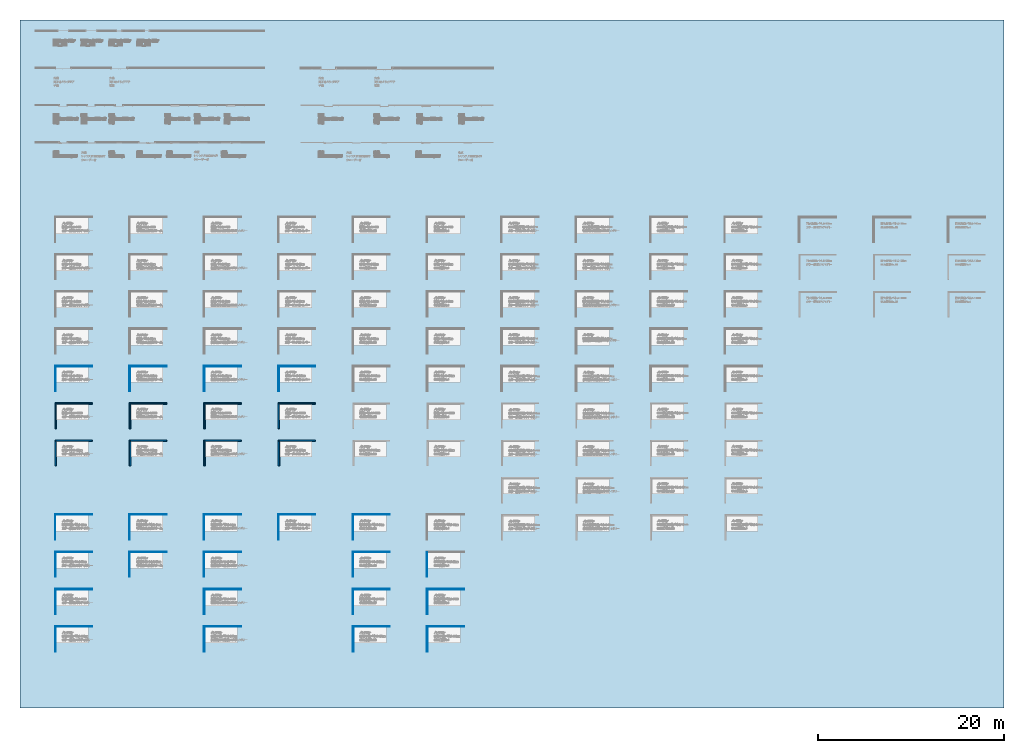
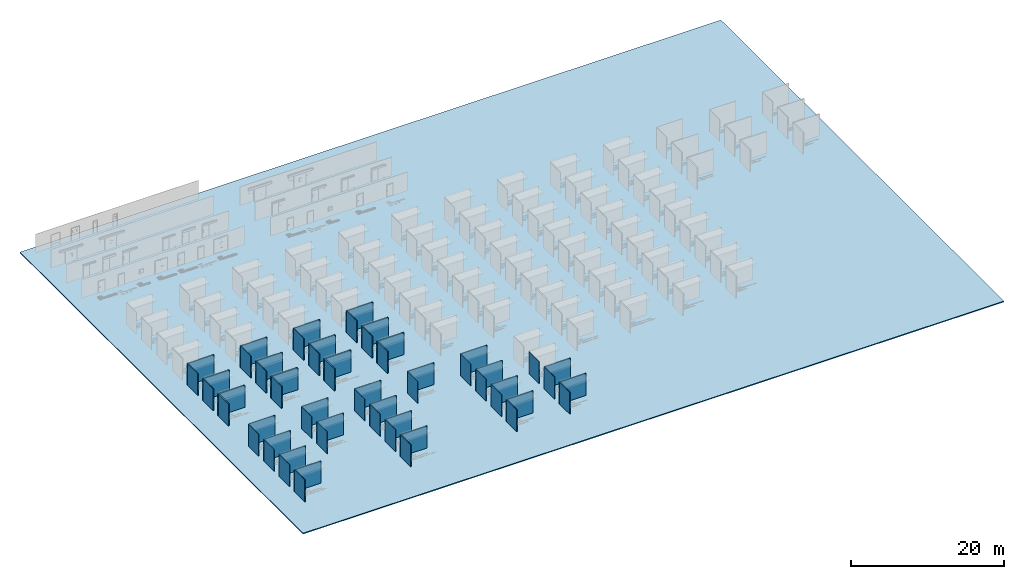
# One storey, part 1 of 16: 59 walls, 1 slab.
"""IFC2X3 building model written with IfcOpenShell, lengths in millimetres."""

from ifc_helpers import new_model, entity, si_unit, converted_unit, derived_unit, direction, frame, frame_2d, origin, origin_2d_with_axis, place, context, subcontext, project, spatial, rectangle, extrude, material, layer, layer_set, layer_usage, type_object, element, save


model = new_model("IFC2X3")

# Units and contexts
model_context = context("Model", 3, precision=0.01, world=origin(), true_north=direction((6.123031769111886e-17, 1.0)))
body_context = subcontext(model_context, "Body", "Model", "MODEL_VIEW")
ifc_project = project(units=[si_unit("LENGTHUNIT", "METRE", prefix="MILLI"), si_unit("AREAUNIT", "SQUARE_METRE"), si_unit("VOLUMEUNIT", "CUBIC_METRE"), converted_unit("PLANEANGLEUNIT", "DEGREE", entity("IfcRatioMeasure", 0.017453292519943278), si_unit("PLANEANGLEUNIT", "RADIAN"), dimensions=[0, 0, 0, 0, 0, 0, 0]), si_unit("MASSUNIT", "GRAM", prefix="KILO"), derived_unit("MASSDENSITYUNIT", [(si_unit("MASSUNIT", "GRAM", prefix="KILO"), 1), (si_unit("LENGTHUNIT", "METRE"), -3)]), derived_unit("IONCONCENTRATIONUNIT", [(si_unit("MASSUNIT", "GRAM", prefix="KILO"), 1), (si_unit("LENGTHUNIT", "METRE"), -3)]), derived_unit("MOMENTOFINERTIAUNIT", [(si_unit("LENGTHUNIT", "METRE"), 4)]), si_unit("TIMEUNIT", "SECOND"), si_unit("FREQUENCYUNIT", "HERTZ"), si_unit("THERMODYNAMICTEMPERATUREUNIT", "DEGREE_CELSIUS"), derived_unit("THERMALTRANSMITTANCEUNIT", [(si_unit("MASSUNIT", "GRAM", prefix="KILO"), 1), (si_unit("THERMODYNAMICTEMPERATUREUNIT", "KELVIN"), -1), (si_unit("TIMEUNIT", "SECOND"), -3)]), derived_unit("THERMALCONDUCTANCEUNIT", [(si_unit("MASSUNIT", "GRAM", prefix="KILO"), 1), (si_unit("THERMODYNAMICTEMPERATUREUNIT", "KELVIN"), -1), (si_unit("TIMEUNIT", "SECOND"), -3), (si_unit("LENGTHUNIT", "METRE"), 1)]), derived_unit("VOLUMETRICFLOWRATEUNIT", [(si_unit("LENGTHUNIT", "METRE"), 3), (si_unit("TIMEUNIT", "SECOND"), -1)]), derived_unit("MASSFLOWRATEUNIT", [(si_unit("MASSUNIT", "GRAM", prefix="KILO"), 1), (si_unit("TIMEUNIT", "SECOND"), -1)]), derived_unit("ROTATIONALFREQUENCYUNIT", [(si_unit("TIMEUNIT", "SECOND"), -1)]), si_unit("ELECTRICCURRENTUNIT", "AMPERE"), si_unit("ELECTRICVOLTAGEUNIT", "VOLT"), si_unit("POWERUNIT", "WATT"), si_unit("FORCEUNIT", "NEWTON", prefix="KILO"), si_unit("ILLUMINANCEUNIT", "LUX"), si_unit("LUMINOUSFLUXUNIT", "LUMEN"), si_unit("LUMINOUSINTENSITYUNIT", "CANDELA"), derived_unit("USERDEFINED", [(si_unit("MASSUNIT", "GRAM", prefix="KILO"), -1), (si_unit("LENGTHUNIT", "METRE"), -2), (si_unit("TIMEUNIT", "SECOND"), 3), (si_unit("LUMINOUSFLUXUNIT", "LUMEN"), 1)]), derived_unit("USERDEFINED", [(si_unit("MASSUNIT", "GRAM", prefix="KILO"), 1), (si_unit("TIMEUNIT", "SECOND"), -3), (si_unit("LENGTHUNIT", "METRE"), 3), (si_unit("ELECTRICCURRENTUNIT", "AMPERE"), -2)]), derived_unit("SOUNDPOWERUNIT", [(si_unit("MASSUNIT", "GRAM", prefix="KILO"), 1), (si_unit("TIMEUNIT", "SECOND"), -3), (si_unit("LENGTHUNIT", "METRE"), 2)]), derived_unit("SOUNDPRESSUREUNIT", [(si_unit("MASSUNIT", "GRAM", prefix="KILO"), 1), (si_unit("LENGTHUNIT", "METRE"), -1), (si_unit("TIMEUNIT", "SECOND"), -2)]), derived_unit("LINEARVELOCITYUNIT", [(si_unit("LENGTHUNIT", "METRE"), 1), (si_unit("TIMEUNIT", "SECOND"), -1)]), si_unit("PRESSUREUNIT", "PASCAL"), derived_unit("USERDEFINED", [(si_unit("MASSUNIT", "GRAM", prefix="KILO"), 1), (si_unit("LENGTHUNIT", "METRE"), -2), (si_unit("TIMEUNIT", "SECOND"), -2)]), derived_unit("LINEARFORCEUNIT", [(si_unit("MASSUNIT", "GRAM", prefix="KILO"), 1), (si_unit("TIMEUNIT", "SECOND"), -2)]), derived_unit("PLANARFORCEUNIT", [(si_unit("MASSUNIT", "GRAM", prefix="KILO"), 1), (si_unit("LENGTHUNIT", "METRE"), -1), (si_unit("TIMEUNIT", "SECOND"), -2)]), derived_unit("SPECIFICHEATCAPACITYUNIT", [(si_unit("THERMODYNAMICTEMPERATUREUNIT", "KELVIN"), -1), (si_unit("LENGTHUNIT", "METRE"), 2), (si_unit("TIMEUNIT", "SECOND"), -2)]), derived_unit("HEATINGVALUEUNIT", [(si_unit("LENGTHUNIT", "METRE"), 2), (si_unit("TIMEUNIT", "SECOND"), -2)]), derived_unit("VAPORPERMEABILITYUNIT", [(si_unit("LENGTHUNIT", "METRE"), -1), (si_unit("TIMEUNIT", "SECOND"), 1)]), derived_unit("DYNAMICVISCOSITYUNIT", [(si_unit("MASSUNIT", "GRAM", prefix="KILO"), 1), (si_unit("TIMEUNIT", "SECOND"), -1), (si_unit("LENGTHUNIT", "METRE"), -1)]), derived_unit("THERMALEXPANSIONCOEFFICIENTUNIT", [(si_unit("THERMODYNAMICTEMPERATUREUNIT", "KELVIN"), -1)]), derived_unit("MODULUSOFELASTICITYUNIT", [(si_unit("MASSUNIT", "GRAM", prefix="KILO"), 1), (si_unit("LENGTHUNIT", "METRE"), -1), (si_unit("TIMEUNIT", "SECOND"), -2)]), derived_unit("ISOTHERMALMOISTURECAPACITYUNIT", [(si_unit("LENGTHUNIT", "METRE"), 3), (si_unit("MASSUNIT", "GRAM", prefix="KILO"), -1)]), derived_unit("MOISTUREDIFFUSIVITYUNIT", [(si_unit("TIMEUNIT", "SECOND"), -1), (si_unit("LENGTHUNIT", "METRE"), 2)])], contexts=[model_context])

# Site, building, storey
site_placement = place(None, origin())
site = spatial("IfcSite", under=ifc_project, at=site_placement, Name="Default", CompositionType="ELEMENT")
building_placement = place(site_placement, origin())
building = spatial("IfcBuilding", under=site, at=building_placement, CompositionType="ELEMENT")
storey_placement = place(building_placement, frame((0.0, 0.0, 500.0)))
storey = spatial("IfcBuildingStorey", under=building, at=storey_placement, Name="レベル 1", CompositionType="ELEMENT", Elevation=500.00000000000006)

# Slab
ifc_material_1 = material(Name="<Unnamed>")
ifc_layer_1 = layer(ifc_material_1, 150.0)
ifc_layer_set_1 = layer_set([ifc_layer_1], Name="床:一般 150 mm")
ifc_layer_usage_1 = layer_usage(ifc_layer_set_1, "AXIS3", "POSITIVE", 0.0)
slab_type = type_object("IfcSlabType", Name="床:一般 150 mm", PredefinedType="FLOOR", material=ifc_layer_set_1)
slab_placement = place(storey_placement, origin())
element("IfcSlab", 1, at=slab_placement, inside=storey, type_object=slab_type, material=ifc_layer_usage_1, Name="床:一般 150 mm", ObjectType="床:一般 150 mm", PredefinedType="FLOOR", context=body_context, shape_type="SweptSolid", body=[
    extrude(rectangle(XDim=74000.0, YDim=105820.03872784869, at=origin_2d_with_axis()), frame((25140.980636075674, -3829.265384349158, 0.0), z_axis=(0.0, 0.0, -1.0), x_axis=(0.0, 1.0, 0.0)), (0.0, 0.0, 1.0), 150.0),
])

# Walls
ifc_material_2 = material(Name="g-p_硬質ウレタンフォーム")
ifc_layer_2 = layer(ifc_material_2, 100.0)
ifc_layer_set_2 = layer_set([ifc_layer_2], Name="標準壁:g-p_断熱パネル(フラット)t100")
ifc_layer_usage_2 = layer_usage(ifc_layer_set_2, "AXIS2", "NEGATIVE", 49.99999999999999)
wall_type_1 = type_object("IfcWallType", Name="標準壁:g-p_断熱パネル(フラット)t100", PredefinedType="STANDARD", material=ifc_layer_set_2)
wall_1_placement = place(storey_placement, frame((-24000.0, -4050.0, 0.0)))
element("IfcWallStandardCase", 2, at=wall_1_placement, inside=storey, type_object=wall_type_1, material=ifc_layer_usage_2, Name="標準壁:g-p_断熱パネル(フラット)t100", ObjectType="標準壁:g-p_断熱パネル(フラット)t100", context=body_context, shape_type="SweptSolid", body=[
    extrude(rectangle(XDim=4000.0000000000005, YDim=100.0, at=frame_2d((2000.0000000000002, 0.0), x_axis=(-1.0, 0.0))), origin(), (0.0, 0.0, 1.0), 3500.0000000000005),
])
wall_2_placement = place(storey_placement, frame((-23950.0, -4100.0, 0.0), z_axis=(0.0, 0.0, 1.0), x_axis=(0.0, -1.0, 0.0)))
element("IfcWallStandardCase", 3, at=wall_2_placement, inside=storey, type_object=wall_type_1, material=ifc_layer_usage_2, Name="標準壁:g-p_断熱パネル(フラット)t100", ObjectType="標準壁:g-p_断熱パネル(フラット)t100", context=body_context, shape_type="SweptSolid", body=[
    extrude(rectangle(XDim=2649.9999999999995, YDim=100.00000000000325, at=frame_2d((1324.9999999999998, -1.1830536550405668e-12), x_axis=(-1.0, 0.0))), origin(), (0.0, 0.0, 1.0), 3500.0000000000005),
])
wall_3_placement = place(storey_placement, frame((-16000.0, -4050.0, 0.0)))
element("IfcWallStandardCase", 4, at=wall_3_placement, inside=storey, type_object=wall_type_1, material=ifc_layer_usage_2, Name="標準壁:g-p_断熱パネル(フラット)t100", ObjectType="標準壁:g-p_断熱パネル(フラット)t100", context=body_context, shape_type="SweptSolid", body=[
    extrude(rectangle(XDim=4000.0000000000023, YDim=100.0, at=frame_2d((2000.0000000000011, 0.0), x_axis=(-1.0, 0.0))), origin(), (0.0, 0.0, 1.0), 3500.0000000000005),
])
wall_4_placement = place(storey_placement, frame((-15950.0, -4100.0, 0.0), z_axis=(0.0, 0.0, 1.0), x_axis=(0.0, -1.0, 0.0)))
element("IfcWallStandardCase", 5, at=wall_4_placement, inside=storey, type_object=wall_type_1, material=ifc_layer_usage_2, Name="標準壁:g-p_断熱パネル(フラット)t100", ObjectType="標準壁:g-p_断熱パネル(フラット)t100", context=body_context, shape_type="SweptSolid", body=[
    extrude(rectangle(XDim=2649.9999999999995, YDim=99.99999999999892, at=frame_2d((1324.9999999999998, -9.947598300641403e-14), x_axis=(-1.0, 0.0))), origin(), (0.0, 0.0, 1.0), 3500.0000000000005),
])
wall_5_placement = place(storey_placement, frame((-8000.0, -4050.0, 0.0)))
element("IfcWallStandardCase", 6, at=wall_5_placement, inside=storey, type_object=wall_type_1, material=ifc_layer_usage_2, Name="標準壁:g-p_断熱パネル(フラット)t100", ObjectType="標準壁:g-p_断熱パネル(フラット)t100", context=body_context, shape_type="SweptSolid", body=[
    extrude(rectangle(XDim=4000.0000000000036, YDim=100.0, at=frame_2d((2000.0000000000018, 0.0), x_axis=(-1.0, 0.0))), origin(), (0.0, 0.0, 1.0), 3500.0000000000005),
])
wall_6_placement = place(storey_placement, frame((-7950.0, -4100.0, 0.0), z_axis=(0.0, 0.0, 1.0), x_axis=(0.0, -1.0, 0.0)))
element("IfcWallStandardCase", 7, at=wall_6_placement, inside=storey, type_object=wall_type_1, material=ifc_layer_usage_2, Name="標準壁:g-p_断熱パネル(フラット)t100", ObjectType="標準壁:g-p_断熱パネル(フラット)t100", context=body_context, shape_type="SweptSolid", body=[
    extrude(rectangle(XDim=2649.9999999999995, YDim=99.99999999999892, at=frame_2d((1324.9999999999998, -9.947598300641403e-14), x_axis=(-1.0, 0.0))), origin(), (0.0, 0.0, 1.0), 3500.0000000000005),
])
wall_7_placement = place(storey_placement, frame((0.0, -4050.0, 0.0)))
element("IfcWallStandardCase", 8, at=wall_7_placement, inside=storey, type_object=wall_type_1, material=ifc_layer_usage_2, Name="標準壁:g-p_断熱パネル(フラット)t100", ObjectType="標準壁:g-p_断熱パネル(フラット)t100", context=body_context, shape_type="SweptSolid", body=[
    extrude(rectangle(XDim=4000.000000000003, YDim=100.0, at=frame_2d((2000.0000000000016, 0.0), x_axis=(-1.0, 0.0))), origin(), (0.0, 0.0, 1.0), 3500.0000000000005),
])
wall_8_placement = place(storey_placement, frame((50.0, -4100.0, 0.0), z_axis=(0.0, 0.0, 1.0), x_axis=(0.0, -1.0, 0.0)))
element("IfcWallStandardCase", 9, at=wall_8_placement, inside=storey, type_object=wall_type_1, material=ifc_layer_usage_2, Name="標準壁:g-p_断熱パネル(フラット)t100", ObjectType="標準壁:g-p_断熱パネル(フラット)t100", context=body_context, shape_type="SweptSolid", body=[
    extrude(rectangle(XDim=2649.9999999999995, YDim=100.0, at=frame_2d((1324.9999999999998, 7.105427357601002e-15), x_axis=(-1.0, 0.0))), origin(), (0.0, 0.0, 1.0), 3500.0000000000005),
])
ifc_layer_3 = layer(ifc_material_2, 127.00000000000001)
ifc_layer_set_3 = layer_set([ifc_layer_3], Name="標準壁:g-p_断熱パネル(フラット)t127")
ifc_layer_usage_3 = layer_usage(ifc_layer_set_3, "AXIS2", "NEGATIVE", 63.50000000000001)
wall_type_2 = type_object("IfcWallType", Name="標準壁:g-p_断熱パネル(フラット)t127", PredefinedType="STANDARD", material=ifc_layer_set_3)
wall_9_placement = place(storey_placement, frame((-24000.0, -8063.4999999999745, 0.0)))
element("IfcWallStandardCase", 10, at=wall_9_placement, inside=storey, type_object=wall_type_2, material=ifc_layer_usage_3, Name="標準壁:g-p_断熱パネル(フラット)t127", ObjectType="標準壁:g-p_断熱パネル(フラット)t127", context=body_context, shape_type="SweptSolid", body=[
    extrude(rectangle(XDim=4000.0000000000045, YDim=126.99999999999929, at=frame_2d((2000.0000000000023, 0.0), x_axis=(-1.0, 0.0))), origin(), (0.0, 0.0, 1.0), 3500.0000000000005),
])
wall_10_placement = place(storey_placement, frame((-23936.500000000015, -8127.0, 0.0), z_axis=(0.0, 0.0, 1.0), x_axis=(0.0, -1.0, 0.0)))
element("IfcWallStandardCase", 11, at=wall_10_placement, inside=storey, type_object=wall_type_2, material=ifc_layer_usage_3, Name="標準壁:g-p_断熱パネル(フラット)t127", ObjectType="標準壁:g-p_断熱パネル(フラット)t127", context=body_context, shape_type="SweptSolid", body=[
    extrude(rectangle(XDim=2636.5, YDim=126.99999999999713, at=frame_2d((1318.25, -1.2079226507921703e-12), x_axis=(-1.0, 0.0))), origin(), (0.0, 0.0, 1.0), 3500.0000000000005),
])
wall_11_placement = place(storey_placement, frame((-16000.0, -8063.5, 0.0)))
element("IfcWallStandardCase", 12, at=wall_11_placement, inside=storey, type_object=wall_type_2, material=ifc_layer_usage_3, Name="標準壁:g-p_断熱パネル(フラット)t127", ObjectType="標準壁:g-p_断熱パネル(フラット)t127", context=body_context, shape_type="SweptSolid", body=[
    extrude(rectangle(XDim=4000.0000000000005, YDim=126.99999999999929, at=frame_2d((2000.0000000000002, 0.0), x_axis=(-1.0, 0.0))), origin(), (0.0, 0.0, 1.0), 3500.0000000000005),
])
wall_12_placement = place(storey_placement, frame((-15936.500000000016, -8127.0, 0.0), z_axis=(0.0, 0.0, 1.0), x_axis=(0.0, -1.0, 0.0)))
element("IfcWallStandardCase", 13, at=wall_12_placement, inside=storey, type_object=wall_type_2, material=ifc_layer_usage_3, Name="標準壁:g-p_断熱パネル(フラット)t127", ObjectType="標準壁:g-p_断熱パネル(フラット)t127", context=body_context, shape_type="SweptSolid", body=[
    extrude(rectangle(XDim=2636.5, YDim=127.00000000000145, at=frame_2d((1318.25, -1.2789769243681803e-13), x_axis=(-1.0, 0.0))), origin(), (0.0, 0.0, 1.0), 3500.0000000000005),
])
wall_13_placement = place(storey_placement, frame((-8000.0, -8063.500000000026, 0.0)))
element("IfcWallStandardCase", 14, at=wall_13_placement, inside=storey, type_object=wall_type_2, material=ifc_layer_usage_3, Name="標準壁:g-p_断熱パネル(フラット)t127", ObjectType="標準壁:g-p_断熱パネル(フラット)t127", context=body_context, shape_type="SweptSolid", body=[
    extrude(rectangle(XDim=4000.0000000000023, YDim=126.99999999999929, at=frame_2d((2000.0000000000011, 0.0), x_axis=(-1.0, 0.0))), origin(), (0.0, 0.0, 1.0), 3500.0000000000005),
])
wall_14_placement = place(storey_placement, frame((-7936.500000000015, -8127.0, 0.0), z_axis=(0.0, 0.0, 1.0), x_axis=(0.0, -1.0, 0.0)))
element("IfcWallStandardCase", 15, at=wall_14_placement, inside=storey, type_object=wall_type_2, material=ifc_layer_usage_3, Name="標準壁:g-p_断熱パネル(フラット)t127", ObjectType="標準壁:g-p_断熱パネル(フラット)t127", context=body_context, shape_type="SweptSolid", body=[
    extrude(rectangle(XDim=2636.5, YDim=126.99999999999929, at=frame_2d((1318.25, -1.2789769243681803e-13), x_axis=(-1.0, 0.0))), origin(), (0.0, 0.0, 1.0), 3500.0000000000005),
])
wall_15_placement = place(storey_placement, frame((0.0, -8063.500000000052, 0.0)))
element("IfcWallStandardCase", 16, at=wall_15_placement, inside=storey, type_object=wall_type_2, material=ifc_layer_usage_3, Name="標準壁:g-p_断熱パネル(フラット)t127", ObjectType="標準壁:g-p_断熱パネル(フラット)t127", context=body_context, shape_type="SweptSolid", body=[
    extrude(rectangle(XDim=4000.000000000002, YDim=126.99999999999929, at=frame_2d((2000.000000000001, 0.0), x_axis=(-1.0, 0.0))), origin(), (0.0, 0.0, 1.0), 3500.0000000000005),
])
wall_16_placement = place(storey_placement, frame((63.49999999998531, -8127.0, 0.0), z_axis=(0.0, 0.0, 1.0), x_axis=(0.0, -1.0, 0.0)))
element("IfcWallStandardCase", 17, at=wall_16_placement, inside=storey, type_object=wall_type_2, material=ifc_layer_usage_3, Name="標準壁:g-p_断熱パネル(フラット)t127", ObjectType="標準壁:g-p_断熱パネル(フラット)t127", context=body_context, shape_type="SweptSolid", body=[
    extrude(rectangle(XDim=2636.5, YDim=127.00000000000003, at=frame_2d((1318.25, 0.0), x_axis=(-1.0, 0.0))), origin(), (0.0, 0.0, 1.0), 3500.0000000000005),
])
ifc_layer_4 = layer(ifc_material_2, 152.0)
ifc_layer_set_4 = layer_set([ifc_layer_4], Name="標準壁:g-p_断熱パネル(フラット)t152")
ifc_layer_usage_4 = layer_usage(ifc_layer_set_4, "AXIS2", "NEGATIVE", 75.99999999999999)
wall_type_3 = type_object("IfcWallType", Name="標準壁:g-p_断熱パネル(フラット)t152", PredefinedType="STANDARD", material=ifc_layer_set_4)
wall_17_placement = place(storey_placement, frame((-24000.0, -12076.0, 0.0)))
element("IfcWallStandardCase", 18, at=wall_17_placement, inside=storey, type_object=wall_type_3, material=ifc_layer_usage_4, Name="標準壁:g-p_断熱パネル(フラット)t152", ObjectType="標準壁:g-p_断熱パネル(フラット)t152", context=body_context, shape_type="SweptSolid", body=[
    extrude(rectangle(XDim=4000.0000000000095, YDim=152.00000000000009, at=frame_2d((2000.0000000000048, 0.0), x_axis=(-1.0, 0.0))), origin(), (0.0, 0.0, 1.0), 3500.0000000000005),
])
wall_18_placement = place(storey_placement, frame((-23924.0, -12152.0, 0.0), z_axis=(0.0, 0.0, 1.0), x_axis=(0.0, -1.0, 0.0)))
element("IfcWallStandardCase", 19, at=wall_18_placement, inside=storey, type_object=wall_type_3, material=ifc_layer_usage_4, Name="標準壁:g-p_断熱パネル(フラット)t152", ObjectType="標準壁:g-p_断熱パネル(フラット)t152", context=body_context, shape_type="SweptSolid", body=[
    extrude(rectangle(XDim=2623.999999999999, YDim=152.0000000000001, at=frame_2d((1311.9999999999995, -1.2292389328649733e-12), x_axis=(-1.0, 0.0))), origin(), (0.0, 0.0, 1.0), 3500.0000000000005),
])
wall_19_placement = place(storey_placement, frame((-16000.0, -12076.0, 0.0)))
element("IfcWallStandardCase", 20, at=wall_19_placement, inside=storey, type_object=wall_type_3, material=ifc_layer_usage_4, Name="標準壁:g-p_断熱パネル(フラット)t152", ObjectType="標準壁:g-p_断熱パネル(フラット)t152", context=body_context, shape_type="SweptSolid", body=[
    extrude(rectangle(XDim=4000.0000000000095, YDim=152.00000000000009, at=frame_2d((2000.0000000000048, 0.0), x_axis=(-1.0, 0.0))), origin(), (0.0, 0.0, 1.0), 3500.0000000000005),
])
wall_20_placement = place(storey_placement, frame((-15924.0, -12152.0, 0.0), z_axis=(0.0, 0.0, 1.0), x_axis=(0.0, -1.0, 0.0)))
element("IfcWallStandardCase", 21, at=wall_20_placement, inside=storey, type_object=wall_type_3, material=ifc_layer_usage_4, Name="標準壁:g-p_断熱パネル(フラット)t152", ObjectType="標準壁:g-p_断熱パネル(フラット)t152", context=body_context, shape_type="SweptSolid", body=[
    extrude(rectangle(XDim=2623.999999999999, YDim=152.0000000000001, at=frame_2d((1311.9999999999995, -1.4921397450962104e-13), x_axis=(-1.0, 0.0))), origin(), (0.0, 0.0, 1.0), 3500.0000000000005),
])
wall_21_placement = place(storey_placement, frame((-8000.0, -12076.0, 0.0)))
element("IfcWallStandardCase", 22, at=wall_21_placement, inside=storey, type_object=wall_type_3, material=ifc_layer_usage_4, Name="標準壁:g-p_断熱パネル(フラット)t152", ObjectType="標準壁:g-p_断熱パネル(フラット)t152", context=body_context, shape_type="SweptSolid", body=[
    extrude(rectangle(XDim=4000.0000000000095, YDim=152.00000000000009, at=frame_2d((2000.0000000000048, 0.0), x_axis=(-1.0, 0.0))), origin(), (0.0, 0.0, 1.0), 3500.0000000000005),
])
wall_22_placement = place(storey_placement, frame((-7924.0, -12152.0, 0.0), z_axis=(0.0, 0.0, 1.0), x_axis=(0.0, -1.0, 0.0)))
element("IfcWallStandardCase", 23, at=wall_22_placement, inside=storey, type_object=wall_type_3, material=ifc_layer_usage_4, Name="標準壁:g-p_断熱パネル(フラット)t152", ObjectType="標準壁:g-p_断熱パネル(フラット)t152", context=body_context, shape_type="SweptSolid", body=[
    extrude(rectangle(XDim=2623.999999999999, YDim=152.0000000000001, at=frame_2d((1311.9999999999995, -1.4921397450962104e-13), x_axis=(-1.0, 0.0))), origin(), (0.0, 0.0, 1.0), 3500.0000000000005),
])
wall_23_placement = place(storey_placement, frame((0.0, -12076.0, 0.0)))
element("IfcWallStandardCase", 24, at=wall_23_placement, inside=storey, type_object=wall_type_3, material=ifc_layer_usage_4, Name="標準壁:g-p_断熱パネル(フラット)t152", ObjectType="標準壁:g-p_断熱パネル(フラット)t152", context=body_context, shape_type="SweptSolid", body=[
    extrude(rectangle(XDim=4000.000000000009, YDim=152.00000000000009, at=frame_2d((2000.0000000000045, 0.0), x_axis=(-1.0, 0.0))), origin(), (0.0, 0.0, 1.0), 3500.0000000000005),
])
wall_24_placement = place(storey_placement, frame((76.0, -12152.0, 0.0), z_axis=(0.0, 0.0, 1.0), x_axis=(0.0, -1.0, 0.0)))
element("IfcWallStandardCase", 25, at=wall_24_placement, inside=storey, type_object=wall_type_3, material=ifc_layer_usage_4, Name="標準壁:g-p_断熱パネル(フラット)t152", ObjectType="標準壁:g-p_断熱パネル(フラット)t152", context=body_context, shape_type="SweptSolid", body=[
    extrude(rectangle(XDim=2623.999999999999, YDim=151.99999999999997, at=frame_2d((1311.9999999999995, -7.105427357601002e-15), x_axis=(-1.0, 0.0))), origin(), (0.0, 0.0, 1.0), 3500.0000000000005),
])
ifc_material_3 = material(Name="g-p_硬質イソシアヌレートフォーム")
ifc_layer_5 = layer(ifc_material_3, 44.0)
ifc_layer_set_5 = layer_set([ifc_layer_5], Name="標準壁:g-p_不燃断熱パネル(フラット)t44")
ifc_layer_usage_5 = layer_usage(ifc_layer_set_5, "AXIS2", "NEGATIVE", 22.0)
wall_type_4 = type_object("IfcWallType", Name="標準壁:g-p_不燃断熱パネル(フラット)t44", PredefinedType="STANDARD", material=ifc_layer_set_5)
wall_25_placement = place(storey_placement, frame((-24000.0, -20022.0, 0.0)))
element("IfcWallStandardCase", 26, at=wall_25_placement, inside=storey, type_object=wall_type_4, material=ifc_layer_usage_5, Name="標準壁:g-p_不燃断熱パネル(フラット)t44", ObjectType="標準壁:g-p_不燃断熱パネル(フラット)t44", context=body_context, shape_type="SweptSolid", body=[
    extrude(rectangle(XDim=3999.999999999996, YDim=43.99999999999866, at=frame_2d((1999.999999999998, 0.0), x_axis=(-1.0, 0.0))), origin(), (0.0, 0.0, 1.0), 3500.0000000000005),
])
wall_26_placement = place(storey_placement, frame((-23978.0, -20044.0, 0.0), z_axis=(0.0, 0.0, 1.0), x_axis=(0.0, -1.0, 0.0)))
element("IfcWallStandardCase", 27, at=wall_26_placement, inside=storey, type_object=wall_type_4, material=ifc_layer_usage_5, Name="標準壁:g-p_不燃断熱パネル(フラット)t44", ObjectType="標準壁:g-p_不燃断熱パネル(フラット)t44", context=body_context, shape_type="SweptSolid", body=[
    extrude(rectangle(XDim=2678.000000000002, YDim=43.999999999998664, at=frame_2d((1339.000000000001, -1.1262102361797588e-12), x_axis=(-1.0, 0.0))), origin(), (0.0, 0.0, 1.0), 3500.0000000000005),
])
wall_27_placement = place(storey_placement, frame((-16000.0, -20022.0, 0.0)))
element("IfcWallStandardCase", 28, at=wall_27_placement, inside=storey, type_object=wall_type_4, material=ifc_layer_usage_5, Name="標準壁:g-p_不燃断熱パネル(フラット)t44", ObjectType="標準壁:g-p_不燃断熱パネル(フラット)t44", context=body_context, shape_type="SweptSolid", body=[
    extrude(rectangle(XDim=3999.999999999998, YDim=43.99999999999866, at=frame_2d((1999.999999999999, 0.0), x_axis=(-1.0, 0.0))), origin(), (0.0, 0.0, 1.0), 3500.0000000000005),
])
wall_28_placement = place(storey_placement, frame((-15978.0, -20044.0, 0.0), z_axis=(0.0, 0.0, 1.0), x_axis=(0.0, -1.0, 0.0)))
element("IfcWallStandardCase", 29, at=wall_28_placement, inside=storey, type_object=wall_type_4, material=ifc_layer_usage_5, Name="標準壁:g-p_不燃断熱パネル(フラット)t44", ObjectType="標準壁:g-p_不燃断熱パネル(フラット)t44", context=body_context, shape_type="SweptSolid", body=[
    extrude(rectangle(XDim=2678.000000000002, YDim=43.99999999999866, at=frame_2d((1339.000000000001, -4.440892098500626e-14), x_axis=(-1.0, 0.0))), origin(), (0.0, 0.0, 1.0), 3500.0000000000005),
])
wall_29_placement = place(storey_placement, frame((-8000.0, -20022.0, 0.0)))
element("IfcWallStandardCase", 30, at=wall_29_placement, inside=storey, type_object=wall_type_4, material=ifc_layer_usage_5, Name="標準壁:g-p_不燃断熱パネル(フラット)t44", ObjectType="標準壁:g-p_不燃断熱パネル(フラット)t44", context=body_context, shape_type="SweptSolid", body=[
    extrude(rectangle(XDim=3999.999999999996, YDim=43.99999999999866, at=frame_2d((1999.999999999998, 0.0), x_axis=(-1.0, 0.0))), origin(), (0.0, 0.0, 1.0), 3500.0000000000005),
])
wall_30_placement = place(storey_placement, frame((-7978.0, -20044.0, 0.0), z_axis=(0.0, 0.0, 1.0), x_axis=(0.0, -1.0, 0.0)))
element("IfcWallStandardCase", 31, at=wall_30_placement, inside=storey, type_object=wall_type_4, material=ifc_layer_usage_5, Name="標準壁:g-p_不燃断熱パネル(フラット)t44", ObjectType="標準壁:g-p_不燃断熱パネル(フラット)t44", context=body_context, shape_type="SweptSolid", body=[
    extrude(rectangle(XDim=2678.000000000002, YDim=44.000000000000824, at=frame_2d((1339.000000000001, -4.440892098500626e-14), x_axis=(-1.0, 0.0))), origin(), (0.0, 0.0, 1.0), 3500.0000000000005),
])
wall_31_placement = place(storey_placement, frame((0.0, -20022.0, 0.0)))
element("IfcWallStandardCase", 32, at=wall_31_placement, inside=storey, type_object=wall_type_4, material=ifc_layer_usage_5, Name="標準壁:g-p_不燃断熱パネル(フラット)t44", ObjectType="標準壁:g-p_不燃断熱パネル(フラット)t44", context=body_context, shape_type="SweptSolid", body=[
    extrude(rectangle(XDim=3999.9999999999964, YDim=43.99999999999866, at=frame_2d((1999.9999999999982, 0.0), x_axis=(-1.0, 0.0))), origin(), (0.0, 0.0, 1.0), 3500.0000000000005),
])
wall_32_placement = place(storey_placement, frame((22.0, -20044.0, 0.0), z_axis=(0.0, 0.0, 1.0), x_axis=(0.0, -1.0, 0.0)))
element("IfcWallStandardCase", 33, at=wall_32_placement, inside=storey, type_object=wall_type_4, material=ifc_layer_usage_5, Name="標準壁:g-p_不燃断熱パネル(フラット)t44", ObjectType="標準壁:g-p_不燃断熱パネル(フラット)t44", context=body_context, shape_type="SweptSolid", body=[
    extrude(rectangle(XDim=2678.000000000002, YDim=44.0, at=frame_2d((1339.000000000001, 3.552713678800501e-15), x_axis=(-1.0, 0.0))), origin(), (0.0, 0.0, 1.0), 3500.0000000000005),
])
wall_33_placement = place(storey_placement, frame((8000.0, -20022.0, 0.0)))
element("IfcWallStandardCase", 34, at=wall_33_placement, inside=storey, type_object=wall_type_4, material=ifc_layer_usage_5, Name="標準壁:g-p_不燃断熱パネル(フラット)t44", ObjectType="標準壁:g-p_不燃断熱パネル(フラット)t44", context=body_context, shape_type="SweptSolid", body=[
    extrude(rectangle(XDim=3999.999999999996, YDim=43.99999999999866, at=frame_2d((1999.999999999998, 0.0), x_axis=(-1.0, 0.0))), origin(), (0.0, 0.0, 1.0), 3500.0000000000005),
])
wall_34_placement = place(storey_placement, frame((8022.0, -20044.0, 0.0), z_axis=(0.0, 0.0, 1.0), x_axis=(0.0, -1.0, 0.0)))
element("IfcWallStandardCase", 35, at=wall_34_placement, inside=storey, type_object=wall_type_4, material=ifc_layer_usage_5, Name="標準壁:g-p_不燃断熱パネル(フラット)t44", ObjectType="標準壁:g-p_不燃断熱パネル(フラット)t44", context=body_context, shape_type="SweptSolid", body=[
    extrude(rectangle(XDim=2678.000000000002, YDim=44.000000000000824, at=frame_2d((1339.000000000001, -4.440892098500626e-14), x_axis=(-1.0, 0.0))), origin(), (0.0, 0.0, 1.0), 3500.0000000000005),
])
ifc_layer_6 = layer(ifc_material_3, 50.0)
ifc_layer_set_6 = layer_set([ifc_layer_6], Name="標準壁:g-p_不燃断熱パネル(フラット)t50")
ifc_layer_usage_6 = layer_usage(ifc_layer_set_6, "AXIS2", "NEGATIVE", 25.0)
wall_type_5 = type_object("IfcWallType", Name="標準壁:g-p_不燃断熱パネル(フラット)t50", PredefinedType="STANDARD", material=ifc_layer_set_6)
wall_35_placement = place(storey_placement, frame((-24000.0, -24025.0, 0.0)))
element("IfcWallStandardCase", 36, at=wall_35_placement, inside=storey, type_object=wall_type_5, material=ifc_layer_usage_6, Name="標準壁:g-p_不燃断熱パネル(フラット)t50", ObjectType="標準壁:g-p_不燃断熱パネル(フラット)t50", context=body_context, shape_type="SweptSolid", body=[
    extrude(rectangle(XDim=4000.0000000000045, YDim=49.99999999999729, at=frame_2d((2000.0000000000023, 0.0), x_axis=(-1.0, 0.0))), origin(), (0.0, 0.0, 1.0), 3500.0000000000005),
])
wall_36_placement = place(storey_placement, frame((-23975.0, -24050.0, 0.0), z_axis=(0.0, 0.0, 1.0), x_axis=(0.0, -1.0, 0.0)))
element("IfcWallStandardCase", 37, at=wall_36_placement, inside=storey, type_object=wall_type_5, material=ifc_layer_usage_6, Name="標準壁:g-p_不燃断熱パネル(フラット)t50", ObjectType="標準壁:g-p_不燃断熱パネル(フラット)t50", context=body_context, shape_type="SweptSolid", body=[
    extrude(rectangle(XDim=2674.999999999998, YDim=49.9999999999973, at=frame_2d((1337.499999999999, -1.1333156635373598e-12), x_axis=(-1.0, 0.0))), origin(), (0.0, 0.0, 1.0), 3500.0000000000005),
])
wall_37_placement = place(storey_placement, frame((-16000.0, -24025.0, 0.0)))
element("IfcWallStandardCase", 38, at=wall_37_placement, inside=storey, type_object=wall_type_5, material=ifc_layer_usage_6, Name="標準壁:g-p_不燃断熱パネル(フラット)t50", ObjectType="標準壁:g-p_不燃断熱パネル(フラット)t50", context=body_context, shape_type="SweptSolid", body=[
    extrude(rectangle(XDim=4000.0000000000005, YDim=49.99999999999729, at=frame_2d((2000.0000000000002, 0.0), x_axis=(-1.0, 0.0))), origin(), (0.0, 0.0, 1.0), 3500.0000000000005),
])
wall_38_placement = place(storey_placement, frame((-15975.0, -24050.0, 0.0), z_axis=(0.0, 0.0, 1.0), x_axis=(0.0, -1.0, 0.0)))
element("IfcWallStandardCase", 39, at=wall_38_placement, inside=storey, type_object=wall_type_5, material=ifc_layer_usage_6, Name="標準壁:g-p_不燃断熱パネル(フラット)t50", ObjectType="標準壁:g-p_不燃断熱パネル(フラット)t50", context=body_context, shape_type="SweptSolid", body=[
    extrude(rectangle(XDim=2674.999999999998, YDim=50.00000000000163, at=frame_2d((1337.499999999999, -5.1514348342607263e-14), x_axis=(-1.0, 0.0))), origin(), (0.0, 0.0, 1.0), 3500.0000000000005),
])
wall_39_placement = place(storey_placement, frame((-8000.0, -24025.0, 0.0)))
element("IfcWallStandardCase", 40, at=wall_39_placement, inside=storey, type_object=wall_type_5, material=ifc_layer_usage_6, Name="標準壁:g-p_不燃断熱パネル(フラット)t50", ObjectType="標準壁:g-p_不燃断熱パネル(フラット)t50", context=body_context, shape_type="SweptSolid", body=[
    extrude(rectangle(XDim=4000.0000000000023, YDim=49.99999999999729, at=frame_2d((2000.0000000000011, 0.0), x_axis=(-1.0, 0.0))), origin(), (0.0, 0.0, 1.0), 3500.0000000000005),
])
wall_40_placement = place(storey_placement, frame((-7975.0, -24050.0, 0.0), z_axis=(0.0, 0.0, 1.0), x_axis=(0.0, -1.0, 0.0)))
element("IfcWallStandardCase", 41, at=wall_40_placement, inside=storey, type_object=wall_type_5, material=ifc_layer_usage_6, Name="標準壁:g-p_不燃断熱パネル(フラット)t50", ObjectType="標準壁:g-p_不燃断熱パネル(フラット)t50", context=body_context, shape_type="SweptSolid", body=[
    extrude(rectangle(XDim=2674.999999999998, YDim=49.99999999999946, at=frame_2d((1337.499999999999, -4.973799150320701e-14), x_axis=(-1.0, 0.0))), origin(), (0.0, 0.0, 1.0), 3500.0000000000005),
])
wall_41_placement = place(storey_placement, frame((8000.0, -24025.0, 0.0)))
element("IfcWallStandardCase", 42, at=wall_41_placement, inside=storey, type_object=wall_type_5, material=ifc_layer_usage_6, Name="標準壁:g-p_不燃断熱パネル(フラット)t50", ObjectType="標準壁:g-p_不燃断熱パネル(フラット)t50", context=body_context, shape_type="SweptSolid", body=[
    extrude(rectangle(XDim=4000.0000000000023, YDim=49.99999999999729, at=frame_2d((2000.0000000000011, 0.0), x_axis=(-1.0, 0.0))), origin(), (0.0, 0.0, 1.0), 3500.0000000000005),
])
wall_42_placement = place(storey_placement, frame((8025.0, -24050.0, 0.0), z_axis=(0.0, 0.0, 1.0), x_axis=(0.0, -1.0, 0.0)))
element("IfcWallStandardCase", 43, at=wall_42_placement, inside=storey, type_object=wall_type_5, material=ifc_layer_usage_6, Name="標準壁:g-p_不燃断熱パネル(フラット)t50", ObjectType="標準壁:g-p_不燃断熱パネル(フラット)t50", context=body_context, shape_type="SweptSolid", body=[
    extrude(rectangle(XDim=2674.999999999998, YDim=49.99999999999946, at=frame_2d((1337.499999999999, -4.973799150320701e-14), x_axis=(-1.0, 0.0))), origin(), (0.0, 0.0, 1.0), 3500.0000000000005),
])
wall_43_placement = place(storey_placement, frame((16025.0, -24050.0, 0.0), z_axis=(0.0, 0.0, 1.0), x_axis=(0.0, -1.0, 0.0)))
element("IfcWallStandardCase", 44, at=wall_43_placement, inside=storey, type_object=wall_type_5, material=ifc_layer_usage_6, Name="標準壁:g-p_不燃断熱パネル(フラット)t50", ObjectType="標準壁:g-p_不燃断熱パネル(フラット)t50", context=body_context, shape_type="SweptSolid", body=[
    extrude(rectangle(XDim=2674.999999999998, YDim=50.00000000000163, at=frame_2d((1337.499999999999, -5.1514348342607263e-14), x_axis=(-1.0, 0.0))), origin(), (0.0, 0.0, 1.0), 3500.0000000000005),
])
ifc_layer_7 = layer(ifc_material_3, 77.0)
ifc_layer_set_7 = layer_set([ifc_layer_7], Name="標準壁:g-p_不燃断熱パネル(フラット)t77")
ifc_layer_usage_7 = layer_usage(ifc_layer_set_7, "AXIS2", "NEGATIVE", 38.5)
wall_type_6 = type_object("IfcWallType", Name="標準壁:g-p_不燃断熱パネル(フラット)t77", PredefinedType="STANDARD", material=ifc_layer_set_7)
wall_44_placement = place(storey_placement, frame((-24000.0, -28038.499999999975, 0.0)))
element("IfcWallStandardCase", 45, at=wall_44_placement, inside=storey, type_object=wall_type_6, material=ifc_layer_usage_7, Name="標準壁:g-p_不燃断熱パネル(フラット)t77", ObjectType="標準壁:g-p_不燃断熱パネル(フラット)t77", context=body_context, shape_type="SweptSolid", body=[
    extrude(rectangle(XDim=4000.0000000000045, YDim=76.99999999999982, at=frame_2d((2000.0000000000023, 0.0), x_axis=(-1.0, 0.0))), origin(), (0.0, 0.0, 1.0), 3500.0000000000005),
])
wall_45_placement = place(storey_placement, frame((-23961.50000000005, -28077.0, 0.0), z_axis=(0.0, 0.0, 1.0), x_axis=(0.0, -1.0, 0.0)))
element("IfcWallStandardCase", 46, at=wall_45_placement, inside=storey, type_object=wall_type_6, material=ifc_layer_usage_7, Name="標準壁:g-p_不燃断熱パネル(フラット)t77", ObjectType="標準壁:g-p_不燃断熱パネル(フラット)t77", context=body_context, shape_type="SweptSolid", body=[
    extrude(rectangle(XDim=2661.5000000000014, YDim=76.99999999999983, at=frame_2d((1330.7500000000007, -1.1581846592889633e-12), x_axis=(-1.0, 0.0))), origin(), (0.0, 0.0, 1.0), 3500.0000000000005),
])
wall_46_placement = place(storey_placement, frame((-8000.0, -28038.50000000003, 0.0)))
element("IfcWallStandardCase", 47, at=wall_46_placement, inside=storey, type_object=wall_type_6, material=ifc_layer_usage_7, Name="標準壁:g-p_不燃断熱パネル(フラット)t77", ObjectType="標準壁:g-p_不燃断熱パネル(フラット)t77", context=body_context, shape_type="SweptSolid", body=[
    extrude(rectangle(XDim=4000.0000000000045, YDim=76.99999999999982, at=frame_2d((2000.0000000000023, 0.0), x_axis=(-1.0, 0.0))), origin(), (0.0, 0.0, 1.0), 3500.0000000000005),
])
wall_47_placement = place(storey_placement, frame((-7961.500000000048, -28077.0, 0.0), z_axis=(0.0, 0.0, 1.0), x_axis=(0.0, -1.0, 0.0)))
element("IfcWallStandardCase", 48, at=wall_47_placement, inside=storey, type_object=wall_type_6, material=ifc_layer_usage_7, Name="標準壁:g-p_不燃断熱パネル(フラット)t77", ObjectType="標準壁:g-p_不燃断熱パネル(フラット)t77", context=body_context, shape_type="SweptSolid", body=[
    extrude(rectangle(XDim=2661.5000000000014, YDim=76.99999999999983, at=frame_2d((1330.7500000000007, -7.460698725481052e-14), x_axis=(-1.0, 0.0))), origin(), (0.0, 0.0, 1.0), 3500.0000000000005),
])
wall_48_placement = place(storey_placement, frame((8000.0, -28038.50000000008, 0.0)))
element("IfcWallStandardCase", 49, at=wall_48_placement, inside=storey, type_object=wall_type_6, material=ifc_layer_usage_7, Name="標準壁:g-p_不燃断熱パネル(フラット)t77", ObjectType="標準壁:g-p_不燃断熱パネル(フラット)t77", context=body_context, shape_type="SweptSolid", body=[
    extrude(rectangle(XDim=4000.0000000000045, YDim=76.99999999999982, at=frame_2d((2000.0000000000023, 0.0), x_axis=(-1.0, 0.0))), origin(), (0.0, 0.0, 1.0), 3500.0000000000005),
])
wall_49_placement = place(storey_placement, frame((8038.499999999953, -28077.0, 0.0), z_axis=(0.0, 0.0, 1.0), x_axis=(0.0, -1.0, 0.0)))
element("IfcWallStandardCase", 50, at=wall_49_placement, inside=storey, type_object=wall_type_6, material=ifc_layer_usage_7, Name="標準壁:g-p_不燃断熱パネル(フラット)t77", ObjectType="標準壁:g-p_不燃断熱パネル(フラット)t77", context=body_context, shape_type="SweptSolid", body=[
    extrude(rectangle(XDim=2661.5000000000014, YDim=76.99999999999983, at=frame_2d((1330.7500000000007, -7.460698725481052e-14), x_axis=(-1.0, 0.0))), origin(), (0.0, 0.0, 1.0), 3500.0000000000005),
])
wall_50_placement = place(storey_placement, frame((16000.0, -28038.500000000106, 0.0)))
element("IfcWallStandardCase", 51, at=wall_50_placement, inside=storey, type_object=wall_type_6, material=ifc_layer_usage_7, Name="標準壁:g-p_不燃断熱パネル(フラット)t77", ObjectType="標準壁:g-p_不燃断熱パネル(フラット)t77", context=body_context, shape_type="SweptSolid", body=[
    extrude(rectangle(XDim=4000.0000000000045, YDim=76.99999999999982, at=frame_2d((2000.0000000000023, 0.0), x_axis=(-1.0, 0.0))), origin(), (0.0, 0.0, 1.0), 3500.0000000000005),
])
wall_51_placement = place(storey_placement, frame((16038.499999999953, -28077.0, 0.0), z_axis=(0.0, 0.0, 1.0), x_axis=(0.0, -1.0, 0.0)))
element("IfcWallStandardCase", 52, at=wall_51_placement, inside=storey, type_object=wall_type_6, material=ifc_layer_usage_7, Name="標準壁:g-p_不燃断熱パネル(フラット)t77", ObjectType="標準壁:g-p_不燃断熱パネル(フラット)t77", context=body_context, shape_type="SweptSolid", body=[
    extrude(rectangle(XDim=2661.5000000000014, YDim=76.99999999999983, at=frame_2d((1330.7500000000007, -7.460698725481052e-14), x_axis=(-1.0, 0.0))), origin(), (0.0, 0.0, 1.0), 3500.0000000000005),
])
ifc_layer_8 = layer(ifc_material_3, 100.0)
ifc_layer_set_8 = layer_set([ifc_layer_8], Name="標準壁:g-p_不燃断熱パネル(フラット)t100")
ifc_layer_usage_8 = layer_usage(ifc_layer_set_8, "AXIS2", "NEGATIVE", 49.99999999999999)
wall_type_7 = type_object("IfcWallType", Name="標準壁:g-p_不燃断熱パネル(フラット)t100", PredefinedType="STANDARD", material=ifc_layer_set_8)
wall_52_placement = place(storey_placement, frame((-24000.0, -32050.0, 0.0)))
element("IfcWallStandardCase", 53, at=wall_52_placement, inside=storey, type_object=wall_type_7, material=ifc_layer_usage_8, Name="標準壁:g-p_不燃断熱パネル(フラット)t100", ObjectType="標準壁:g-p_不燃断熱パネル(フラット)t100", context=body_context, shape_type="SweptSolid", body=[
    extrude(rectangle(XDim=4000.0000000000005, YDim=100.00000000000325, at=frame_2d((2000.0000000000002, 0.0), x_axis=(-1.0, 0.0))), origin(), (0.0, 0.0, 1.0), 3500.0000000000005),
])
wall_53_placement = place(storey_placement, frame((-23950.0, -32100.0, 0.0), z_axis=(0.0, 0.0, 1.0), x_axis=(0.0, -1.0, 0.0)))
element("IfcWallStandardCase", 54, at=wall_53_placement, inside=storey, type_object=wall_type_7, material=ifc_layer_usage_8, Name="標準壁:g-p_不燃断熱パネル(フラット)t100", ObjectType="標準壁:g-p_不燃断熱パネル(フラット)t100", context=body_context, shape_type="SweptSolid", body=[
    extrude(rectangle(XDim=2650.000000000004, YDim=100.00000000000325, at=frame_2d((1325.000000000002, -1.1830536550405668e-12), x_axis=(-1.0, 0.0))), origin(), (0.0, 0.0, 1.0), 3500.0000000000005),
])
wall_54_placement = place(storey_placement, frame((-8000.0, -32050.0, 0.0)))
element("IfcWallStandardCase", 55, at=wall_54_placement, inside=storey, type_object=wall_type_7, material=ifc_layer_usage_8, Name="標準壁:g-p_不燃断熱パネル(フラット)t100", ObjectType="標準壁:g-p_不燃断熱パネル(フラット)t100", context=body_context, shape_type="SweptSolid", body=[
    extrude(rectangle(XDim=4000.0000000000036, YDim=100.00000000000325, at=frame_2d((2000.0000000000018, 0.0), x_axis=(-1.0, 0.0))), origin(), (0.0, 0.0, 1.0), 3500.0000000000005),
])
wall_55_placement = place(storey_placement, frame((-7950.0, -32100.0, 0.0), z_axis=(0.0, 0.0, 1.0), x_axis=(0.0, -1.0, 0.0)))
element("IfcWallStandardCase", 56, at=wall_55_placement, inside=storey, type_object=wall_type_7, material=ifc_layer_usage_8, Name="標準壁:g-p_不燃断熱パネル(フラット)t100", ObjectType="標準壁:g-p_不燃断熱パネル(フラット)t100", context=body_context, shape_type="SweptSolid", body=[
    extrude(rectangle(XDim=2650.000000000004, YDim=99.99999999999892, at=frame_2d((1325.000000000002, -9.947598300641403e-14), x_axis=(-1.0, 0.0))), origin(), (0.0, 0.0, 1.0), 3500.0000000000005),
])
wall_56_placement = place(storey_placement, frame((8000.0, -32050.0, 0.0)))
element("IfcWallStandardCase", 57, at=wall_56_placement, inside=storey, type_object=wall_type_7, material=ifc_layer_usage_8, Name="標準壁:g-p_不燃断熱パネル(フラット)t100", ObjectType="標準壁:g-p_不燃断熱パネル(フラット)t100", context=body_context, shape_type="SweptSolid", body=[
    extrude(rectangle(XDim=4000.0000000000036, YDim=100.00000000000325, at=frame_2d((2000.0000000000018, 0.0), x_axis=(-1.0, 0.0))), origin(), (0.0, 0.0, 1.0), 3500.0000000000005),
])
wall_57_placement = place(storey_placement, frame((8050.0, -32100.0, 0.0), z_axis=(0.0, 0.0, 1.0), x_axis=(0.0, -1.0, 0.0)))
element("IfcWallStandardCase", 58, at=wall_57_placement, inside=storey, type_object=wall_type_7, material=ifc_layer_usage_8, Name="標準壁:g-p_不燃断熱パネル(フラット)t100", ObjectType="標準壁:g-p_不燃断熱パネル(フラット)t100", context=body_context, shape_type="SweptSolid", body=[
    extrude(rectangle(XDim=2650.000000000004, YDim=99.99999999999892, at=frame_2d((1325.000000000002, -9.947598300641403e-14), x_axis=(-1.0, 0.0))), origin(), (0.0, 0.0, 1.0), 3500.0000000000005),
])
wall_58_placement = place(storey_placement, frame((16000.0, -32050.0, 0.0)))
element("IfcWallStandardCase", 59, at=wall_58_placement, inside=storey, type_object=wall_type_7, material=ifc_layer_usage_8, Name="標準壁:g-p_不燃断熱パネル(フラット)t100", ObjectType="標準壁:g-p_不燃断熱パネル(フラット)t100", context=body_context, shape_type="SweptSolid", body=[
    extrude(rectangle(XDim=4000.0000000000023, YDim=100.00000000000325, at=frame_2d((2000.0000000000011, 0.0), x_axis=(-1.0, 0.0))), origin(), (0.0, 0.0, 1.0), 3500.0000000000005),
])
wall_59_placement = place(storey_placement, frame((16050.0, -32100.0, 0.0), z_axis=(0.0, 0.0, 1.0), x_axis=(0.0, -1.0, 0.0)))
element("IfcWallStandardCase", 60, at=wall_59_placement, inside=storey, type_object=wall_type_7, material=ifc_layer_usage_8, Name="標準壁:g-p_不燃断熱パネル(フラット)t100", ObjectType="標準壁:g-p_不燃断熱パネル(フラット)t100", context=body_context, shape_type="SweptSolid", body=[
    extrude(rectangle(XDim=2650.000000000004, YDim=99.99999999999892, at=frame_2d((1325.000000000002, -9.947598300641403e-14), x_axis=(-1.0, 0.0))), origin(), (0.0, 0.0, 1.0), 3500.0000000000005),
])

save(model, "model.ifc")
